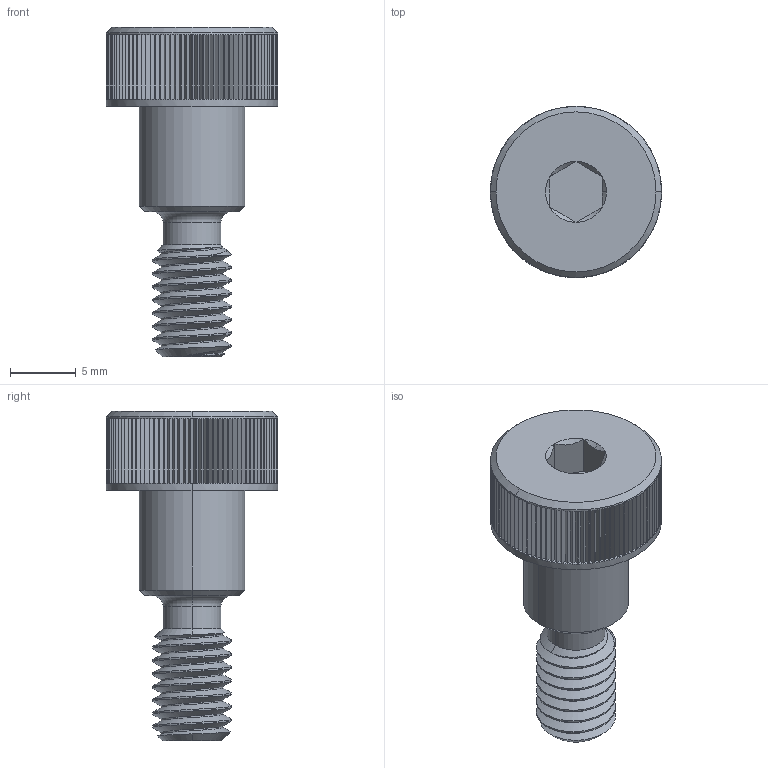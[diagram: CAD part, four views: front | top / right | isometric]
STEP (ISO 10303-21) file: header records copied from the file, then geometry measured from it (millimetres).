
FILE_DESCRIPTION (( 'STEP AP203' ), '1' );
FILE_NAME ('92981A198.STEP', '2018-01-11T22:58:07', ( '' ), ( '' ), 'SwSTEP 2.0', 'SolidWorks 2014', '' );
FILE_SCHEMA (( 'CONFIG_CONTROL_DESIGN' ));
Length unit declared in the file: millimetre
Products named in the file (1): 92981A198
Bounding box: 13 x 13 x 25 mm (x, y, z)
Volume: 1347.7 mm3; surface area: 1209 mm2
Topology: 1 solids, 1 shells, 449 faces, 1020 edges, 673 vertices
Faces by surface type: plane 407, cylinder 21, cone 16, bspline 3, torus 2
Entity records: 14343 total; most frequent: CARTESIAN_POINT 4033, DIRECTION 2097, ORIENTED_EDGE 2040, EDGE_CURVE 1020, VECTOR 737, LINE 737, AXIS2_PLACEMENT_3D 680, VERTEX_POINT 673
